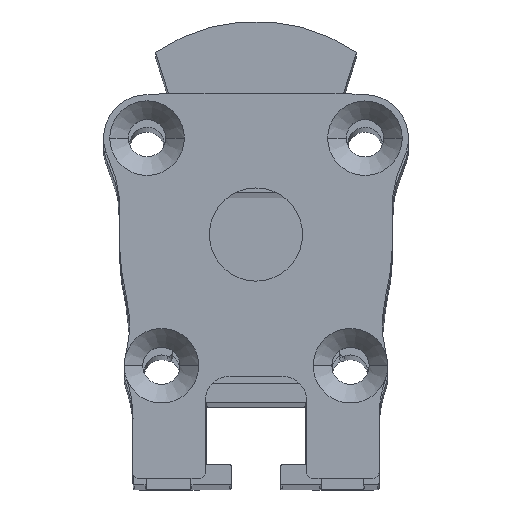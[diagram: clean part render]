
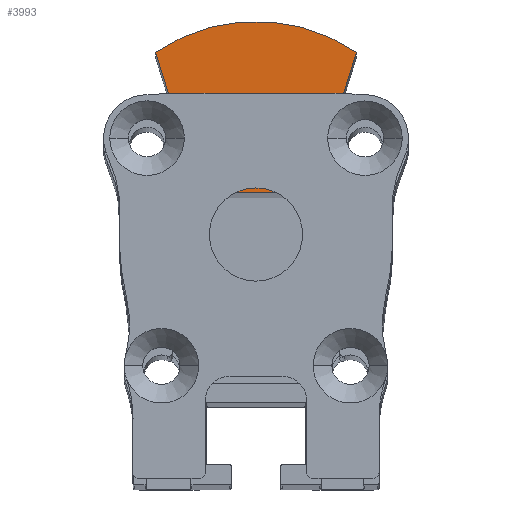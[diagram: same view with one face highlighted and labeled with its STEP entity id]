
A CAD part, top view. The second image highlights one B-rep face of the part: STEP entity #3993.
In plain terms, the highlighted planar face has unit normal (0, 0, 1).
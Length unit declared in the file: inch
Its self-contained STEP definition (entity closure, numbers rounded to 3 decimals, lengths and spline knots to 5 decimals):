
#3993=ADVANCED_FACE('',(#7809),#7810,.T.);
#4001=EDGE_CURVE('',#7813,#7819,#7822,.T.);
#4007=EDGE_CURVE('',#7827,#7819,#7830,.F.);
#4029=EDGE_CURVE('',#7861,#7862,#7863,.F.);
#4035=EDGE_CURVE('',#7869,#7870,#7871,.F.);
#4041=EDGE_CURVE('',#7870,#7861,#7877,.F.);
#4043=EDGE_CURVE('',#7869,#7879,#7880,.F.);
#4047=EDGE_CURVE('',#7813,#7862,#7884,.F.);
#4049=EDGE_CURVE('',#7886,#7887,#7888,.F.);
#4055=EDGE_CURVE('',#7827,#7894,#7895,.F.);
#4059=EDGE_CURVE('',#7894,#7886,#7899,.F.);
#4063=EDGE_CURVE('',#7901,#7887,#7904,.F.);
#4065=EDGE_CURVE('',#7879,#7901,#7906,.F.);
#7809=FACE_OUTER_BOUND('',#17780,.T.);
#7810=PLANE('',#17781);
#7813=VERTEX_POINT('',#17785);
#7819=VERTEX_POINT('',#17795);
#7822=LINE('',#17800,#17801);
#7827=VERTEX_POINT('',#17809);
#7830=LINE('',#17814,#17815);
#7861=VERTEX_POINT('',#17866);
#7862=VERTEX_POINT('',#17867);
#7863=LINE('',#17868,#17869);
#7869=VERTEX_POINT('',#17880);
#7870=VERTEX_POINT('',#17881);
#7871=LINE('',#17882,#17883);
#7877=LINE('',#17894,#17895);
#7879=VERTEX_POINT('',#17898);
#7880=LINE('',#17899,#17900);
#7884=LINE('',#17907,#17908);
#7886=VERTEX_POINT('',#17911);
#7887=VERTEX_POINT('',#17912);
#7888=LINE('',#17913,#17914);
#7894=VERTEX_POINT('',#17925);
#7895=LINE('',#17926,#17927);
#7899=LINE('',#17934,#17935);
#7901=VERTEX_POINT('',#17938);
#7904=LINE('',#17943,#17944);
#7906=CIRCLE('',#17947,0.56299);
#17780=EDGE_LOOP('',(#23489,#23490,#23491,#23492,#23493,#23494,#23495,#23496,#23497,#23498,#23499,#23500));
#17781=AXIS2_PLACEMENT_3D('',#23501,#23502,#23503);
#17785=CARTESIAN_POINT('',(-0.17932,0.15296,-2.46806));
#17795=CARTESIAN_POINT('',(0.17932,0.15296,-2.46806));
#17800=CARTESIAN_POINT('',(0.,0.15296,-2.46806));
#17801=VECTOR('',#23507,1.0);
#17809=CARTESIAN_POINT('',(0.26301,0.4208,-2.46806));
#17814=CARTESIAN_POINT('',(0.19145,0.19179,-2.46806));
#17815=VECTOR('',#23510,1.0);
#17866=CARTESIAN_POINT('',(-0.21005,0.4208,-2.46806));
#17867=CARTESIAN_POINT('',(-0.26301,0.4208,-2.46806));
#17868=CARTESIAN_POINT('',(-0.12298,0.4208,-2.46806));
#17869=VECTOR('',#23523,1.0);
#17880=CARTESIAN_POINT('',(-0.27532,0.46017,-2.46806));
#17881=CARTESIAN_POINT('',(-0.21005,0.46017,-2.46806));
#17882=CARTESIAN_POINT('',(-0.12298,0.46017,-2.46806));
#17883=VECTOR('',#23526,1.0);
#17894=CARTESIAN_POINT('',(-0.21005,0.35333,-2.46806));
#17895=VECTOR('',#23529,1.0);
#17898=CARTESIAN_POINT('',(-0.31832,0.59777,-2.46806));
#17899=CARTESIAN_POINT('',(-0.19145,0.19179,-2.46806));
#17900=VECTOR('',#23530,1.0);
#17907=CARTESIAN_POINT('',(-0.19145,0.19179,-2.46806));
#17908=VECTOR('',#23532,1.0);
#17911=CARTESIAN_POINT('',(0.20856,0.46017,-2.46806));
#17912=CARTESIAN_POINT('',(0.27532,0.46017,-2.46806));
#17913=CARTESIAN_POINT('',(0.12223,0.46017,-2.46806));
#17914=VECTOR('',#23533,1.0);
#17925=CARTESIAN_POINT('',(0.20856,0.4208,-2.46806));
#17926=CARTESIAN_POINT('',(0.12223,0.4208,-2.46806));
#17927=VECTOR('',#23536,1.0);
#17934=CARTESIAN_POINT('',(0.20856,0.35333,-2.46806));
#17935=VECTOR('',#23538,1.0);
#17938=CARTESIAN_POINT('',(0.31832,0.59777,-2.46806));
#17943=CARTESIAN_POINT('',(0.19145,0.19179,-2.46806));
#17944=VECTOR('',#23540,1.0);
#17947=AXIS2_PLACEMENT_3D('',#23541,#23542,#23543);
#23489=ORIENTED_EDGE('',*,*,#4001,.T.);
#23490=ORIENTED_EDGE('',*,*,#4007,.F.);
#23491=ORIENTED_EDGE('',*,*,#4055,.T.);
#23492=ORIENTED_EDGE('',*,*,#4059,.T.);
#23493=ORIENTED_EDGE('',*,*,#4049,.T.);
#23494=ORIENTED_EDGE('',*,*,#4063,.F.);
#23495=ORIENTED_EDGE('',*,*,#4065,.F.);
#23496=ORIENTED_EDGE('',*,*,#4043,.F.);
#23497=ORIENTED_EDGE('',*,*,#4035,.T.);
#23498=ORIENTED_EDGE('',*,*,#4041,.T.);
#23499=ORIENTED_EDGE('',*,*,#4029,.T.);
#23500=ORIENTED_EDGE('',*,*,#4047,.F.);
#23501=CARTESIAN_POINT('',(0.,0.26619,-2.46806));
#23502=DIRECTION('',(0.,0.,1.0));
#23503=DIRECTION('',(1.0,0.0,0.));
#23507=DIRECTION('',(1.0,0.0,0.));
#23510=DIRECTION('',(0.298,0.954,0.));
#23523=DIRECTION('',(1.0,0.0,0.));
#23526=DIRECTION('',(-1.0,0.0,0.));
#23529=DIRECTION('',(-0.0,1.0,0.));
#23530=DIRECTION('',(0.298,-0.954,0.));
#23532=DIRECTION('',(0.298,-0.954,0.));
#23533=DIRECTION('',(-1.0,0.0,0.));
#23536=DIRECTION('',(1.0,0.0,0.));
#23538=DIRECTION('',(-0.0,-1.0,0.));
#23540=DIRECTION('',(0.298,0.954,0.));
#23541=CARTESIAN_POINT('',(0.,0.13341,-2.46806));
#23542=DIRECTION('',(0.,0.,1.0));
#23543=DIRECTION('',(1.0,0.,0.));
